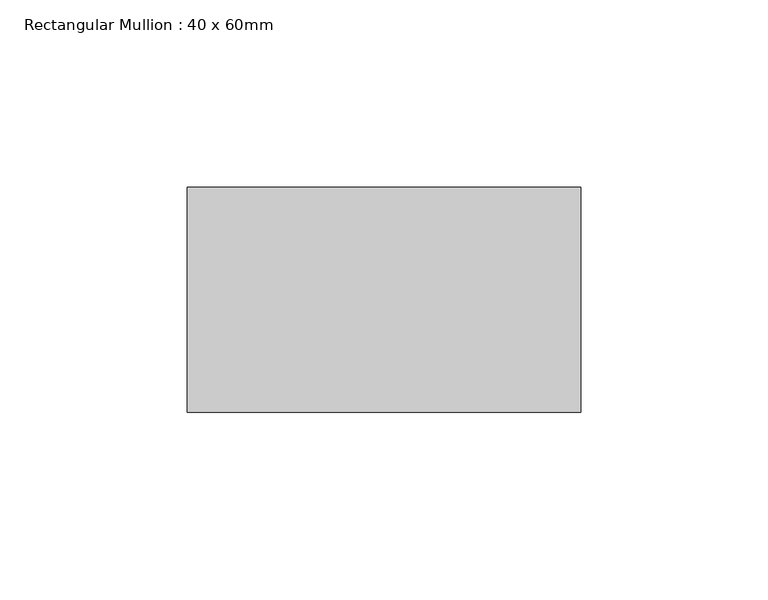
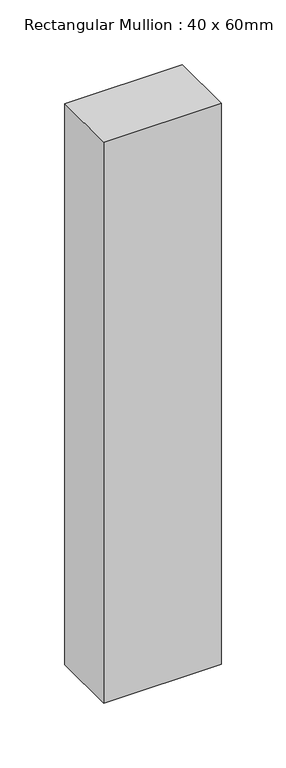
"""IFC4 building model written with IfcOpenShell, lengths in millimetres: member geometry, Rectangular Mullion : 40 x 60mm."""

from ifc_helpers import new_model, si_unit, frame, origin, place, context, project, spatial, polyline, outline, extrude, source, transform, mapped, element, save


def rectangular_mullion_40_x_60mm_719a99c2(model_context):
    return source(origin(), model_context, "Body", "SweptSolid", [
        extrude(outline(polyline([(0.0, -10.0), (0.0, -70.0), (-105.0, -70.0), (-105.0, -10.0), (0.0, -10.0)])), frame((0.0, 0.0, -529.2345774), z_axis=(0.0, 0.0, 1.0), x_axis=(1.0, 0.0, 0.0)), (0.0, 0.0, 1.0), 529.2345774),
    ])


if __name__ == "__main__":
    model = new_model("IFC4")
    model_context = context("Model", 3, world=origin())
    ifc_project = project(units=[si_unit("LENGTHUNIT", "METRE", prefix="MILLI")], contexts=[model_context])
    site = spatial("IfcSite", under=ifc_project)
    building = spatial("IfcBuilding", under=site)
    placement = place(None, origin())
    rectangular_mullion_40_x_60mm_shape = rectangular_mullion_40_x_60mm_719a99c2(model_context)
    element("IfcMember", 1, ObjectType="Rectangular Mullion : 40 x 60mm", at=placement, inside=building, context=model_context, shape_type="MappedRepresentation", body=[
        mapped(rectangular_mullion_40_x_60mm_shape, transform((0.0, 0.0, 0.0), x_axis=(1.0, 0.0, 0.0), y_axis=(0.0, 1.0, 0.0), z_axis=(0.0, 0.0, 1.0))),
    ])
    save(model, "model.ifc")
